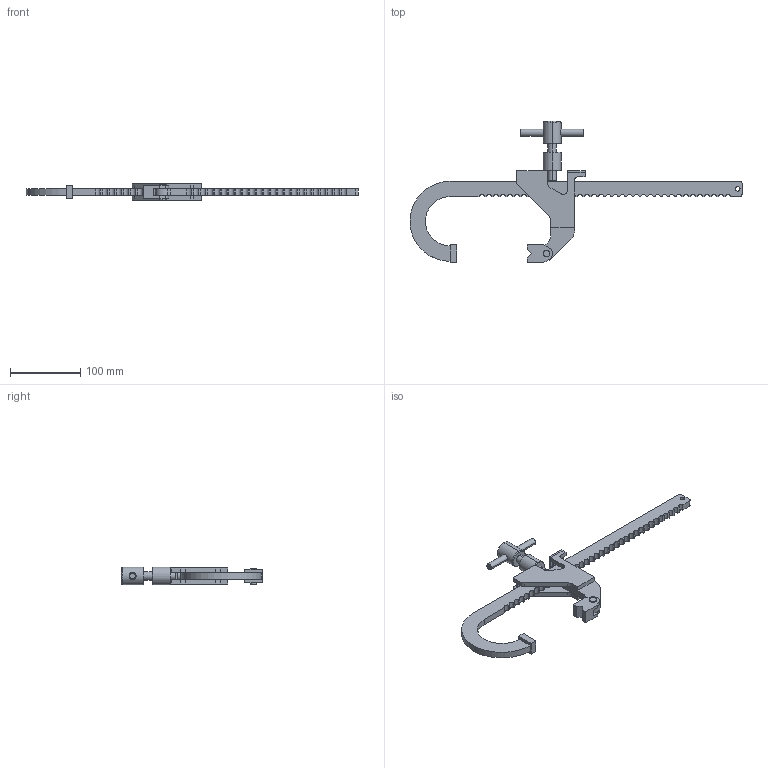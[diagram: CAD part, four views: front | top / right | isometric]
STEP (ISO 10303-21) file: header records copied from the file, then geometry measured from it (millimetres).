
FILE_DESCRIPTION (( 'STEP AP203' ), '1' );
FILE_NAME ('KFS-300.STEP', '2012-09-05T12:00:02', ( 'Ricardo' ), ( '' ), 'SwSTEP 2.0', 'SolidWorks 2012', '' );
FILE_SCHEMA (( 'CONFIG_CONTROL_DESIGN' ));
Length unit declared in the file: millimetre
Products named in the file (15): 15.10096; 05.20051; Subconjunto Haste KFS-300; 15.10097; 03.10020; KFS-300; 3670000074; 16.20105; 16.20104; 15.20025; Subconjunto Base KFS-300; 15.10100; 15.10099; 15.10098_Esquerda; 15.10098_Direita
Assembly tree (15 placements, depth 3):
  KFS-300
    Subconjunto Haste KFS-300
      03.10020
      15.10097
    Subconjunto Base KFS-300
      05.20051
      15.10096
      15.10098_Direita
      15.10098_Esquerda
      15.10099
      15.10100  x2
    15.20025
    16.20104
    16.20105
    3670000074
Bounding box: 472 x 200.7 x 25.4 mm (x, y, z)
Volume: 244947.1 mm3; surface area: 86395.6 mm2
Topology: 13 solids, 13 shells, 232 faces, 598 edges, 394 vertices
Faces by surface type: plane 128, cylinder 90, cone 14
Entity records: 8741 total; most frequent: CARTESIAN_POINT 1362, DIRECTION 1264, ORIENTED_EDGE 1172, EDGE_CURVE 586, AXIS2_PLACEMENT_3D 436, LINE 392, VECTOR 392, VERTEX_POINT 386
